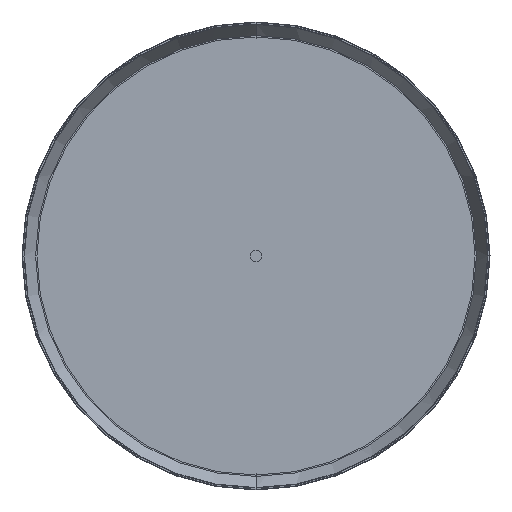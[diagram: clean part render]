
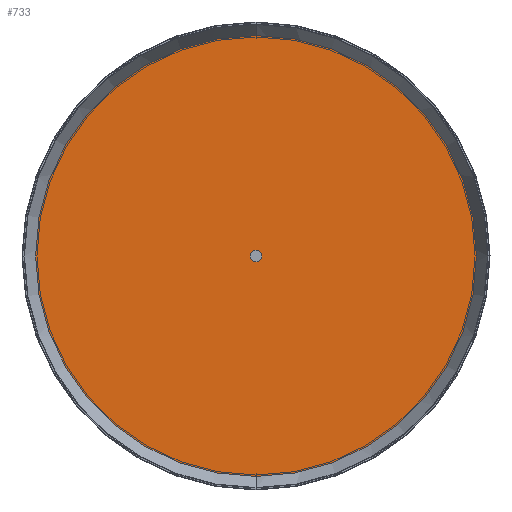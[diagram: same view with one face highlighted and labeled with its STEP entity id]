
A CAD part, front view. The second image highlights one B-rep face of the part: STEP entity #733.
In plain terms, the highlighted planar face has unit normal (0, -1, 0).
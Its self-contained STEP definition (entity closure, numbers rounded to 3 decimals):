
#63 = VERTEX_POINT ( 'NONE', #353 ) ;
#234 = DIRECTION ( 'NONE',  ( 1., 0., 0. ) ) ;
#298 = AXIS2_PLACEMENT_3D ( 'NONE', #469, #724, #234 ) ;
#353 = CARTESIAN_POINT ( 'NONE',  ( 188., 15., 0. ) ) ;
#385 = DIRECTION ( 'NONE',  ( 0., 1., 0. ) ) ;
#454 = EDGE_LOOP ( 'NONE', ( #676, #883 ) ) ;
#469 = CARTESIAN_POINT ( 'NONE',  ( 0., 15., 0. ) ) ;
#470 = DIRECTION ( 'NONE',  ( -1., 0., 0. ) ) ;
#530 = VERTEX_POINT ( 'NONE', #842 ) ;
#546 = CIRCLE ( 'NONE', #298, 188. ) ;
#596 = AXIS2_PLACEMENT_3D ( 'NONE', #704, #1014, #710 ) ;
#638 = PLANE ( 'NONE',  #667 ) ;
#662 = EDGE_CURVE ( 'NONE', #63, #530, #742, .T. ) ;
#667 = AXIS2_PLACEMENT_3D ( 'NONE', #873, #385, #470 ) ;
#676 = ORIENTED_EDGE ( 'NONE', *, *, #662, .T. ) ;
#704 = CARTESIAN_POINT ( 'NONE',  ( 0., 15., 0. ) ) ;
#710 = DIRECTION ( 'NONE',  ( 1., 0., 0. ) ) ;
#724 = DIRECTION ( 'NONE',  ( 0., -1., 0. ) ) ;
#733 = ADVANCED_FACE ( 'NONE', ( #805 ), #638, .F. ) ;
#742 = CIRCLE ( 'NONE', #596, 188. ) ;
#805 = FACE_OUTER_BOUND ( 'NONE', #454, .T. ) ;
#842 = CARTESIAN_POINT ( 'NONE',  ( -188., 15., 0. ) ) ;
#873 = CARTESIAN_POINT ( 'NONE',  ( -188., 15., 0. ) ) ;
#883 = ORIENTED_EDGE ( 'NONE', *, *, #931, .T. ) ;
#931 = EDGE_CURVE ( 'NONE', #530, #63, #546, .T. ) ;
#1014 = DIRECTION ( 'NONE',  ( 0., -1., 0. ) ) ;
